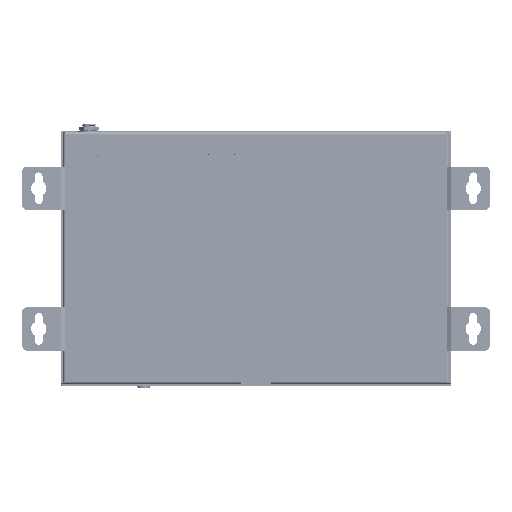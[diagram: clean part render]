
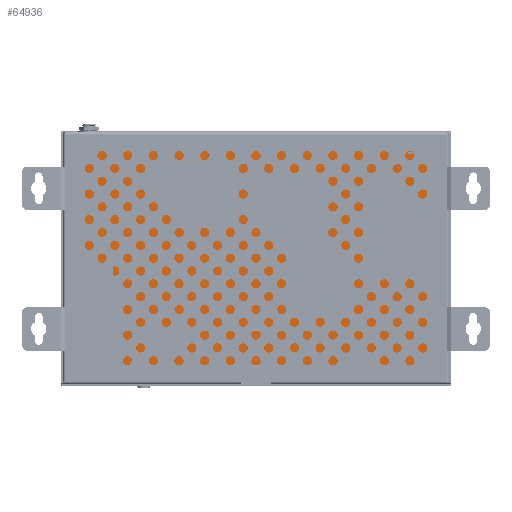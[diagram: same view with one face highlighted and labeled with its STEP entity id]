
A CAD part, front view. The second image highlights one B-rep face of the part: STEP entity #64936.
In plain terms, the highlighted planar face has unit normal (0, -1, 0).
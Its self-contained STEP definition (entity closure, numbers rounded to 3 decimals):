
#64397=CARTESIAN_POINT('',(-76.75,0.,-65.75));
#64398=DIRECTION('',(0.,1.,0.));
#64399=DIRECTION('',(0.,0.,-1.));
#64400=AXIS2_PLACEMENT_3D('',#64397,#64398,#64399);
#64402=CARTESIAN_POINT('',(-99.25,0.,-0.5));
#64403=DIRECTION('',(0.,1.,0.));
#64404=DIRECTION('',(0.,0.,-1.));
#64405=AXIS2_PLACEMENT_3D('',#64402,#64403,#64404);
#64407=DIRECTION('',(0.,0.,1.));
#64408=VECTOR('',#64407,66.75);
#64409=CARTESIAN_POINT('',(-101.25,0.,-0.5));
#64410=LINE('',#64409,#64408);
#64411=CARTESIAN_POINT('',(-99.25,0.,66.25));
#64412=DIRECTION('',(0.,1.,0.));
#64413=DIRECTION('',(-1.,0.,0.));
#64414=AXIS2_PLACEMENT_3D('',#64411,#64412,#64413);
#64416=DIRECTION('',(1.,0.,0.));
#64417=VECTOR('',#64416,136.8);
#64418=CARTESIAN_POINT('',(-99.25,0.,68.25));
#64419=LINE('',#64418,#64417);
#64420=DIRECTION('',(0.,0.,-1.));
#64421=VECTOR('',#64420,8.5);
#64422=CARTESIAN_POINT('',(37.55,0.,68.25));
#64423=LINE('',#64422,#64421);
#64424=DIRECTION('',(1.,0.,0.));
#64425=VECTOR('',#64424,47.2);
#64426=CARTESIAN_POINT('',(52.05,0.,68.25));
#64427=LINE('',#64426,#64425);
#64428=CARTESIAN_POINT('',(99.25,0.,66.25));
#64429=DIRECTION('',(0.,1.,0.));
#64430=DIRECTION('',(0.,0.,1.));
#64431=AXIS2_PLACEMENT_3D('',#64428,#64429,#64430);
#64433=CARTESIAN_POINT('',(99.25,0.,-65.75));
#64434=DIRECTION('',(0.,1.,0.));
#64435=DIRECTION('',(1.,0.,0.));
#64436=AXIS2_PLACEMENT_3D('',#64433,#64434,#64435);
#64438=CARTESIAN_POINT('',(71.,0.,36.1));
#64439=DIRECTION('',(0.,-1.,0.));
#64440=DIRECTION('',(1.,0.,0.));
#64441=AXIS2_PLACEMENT_3D('',#64438,#64439,#64440);
#64443=CARTESIAN_POINT('',(71.,0.,36.1));
#64444=DIRECTION('',(0.,-1.,0.));
#64445=DIRECTION('',(-1.,0.,0.));
#64446=AXIS2_PLACEMENT_3D('',#64443,#64444,#64445);
#64448=CARTESIAN_POINT('',(60.,0.,-57.25));
#64449=DIRECTION('',(0.,-1.,0.));
#64450=DIRECTION('',(1.,0.,0.));
#64451=AXIS2_PLACEMENT_3D('',#64448,#64449,#64450);
#64453=CARTESIAN_POINT('',(60.,0.,-57.25));
#64454=DIRECTION('',(0.,-1.,0.));
#64455=DIRECTION('',(-1.,0.,0.));
#64456=AXIS2_PLACEMENT_3D('',#64453,#64454,#64455);
#64458=CARTESIAN_POINT('',(-50.,0.,-43.9));
#64459=DIRECTION('',(0.,-1.,0.));
#64460=DIRECTION('',(1.,0.,0.));
#64461=AXIS2_PLACEMENT_3D('',#64458,#64459,#64460);
#64463=CARTESIAN_POINT('',(-50.,0.,-43.9));
#64464=DIRECTION('',(0.,-1.,0.));
#64465=DIRECTION('',(-1.,0.,0.));
#64466=AXIS2_PLACEMENT_3D('',#64463,#64464,#64465);
#64468=CARTESIAN_POINT('',(8.05,0.,30.95));
#64469=DIRECTION('',(0.,-1.,0.));
#64470=DIRECTION('',(-1.,0.,0.));
#64471=AXIS2_PLACEMENT_3D('',#64468,#64469,#64470);
#64473=CARTESIAN_POINT('',(8.05,0.,30.95));
#64474=DIRECTION('',(0.,-1.,0.));
#64475=DIRECTION('',(1.,0.,0.));
#64476=AXIS2_PLACEMENT_3D('',#64473,#64474,#64475);
#64478=CARTESIAN_POINT('',(30.05,0.,17.95));
#64479=DIRECTION('',(0.,-1.,0.));
#64480=DIRECTION('',(-1.,0.,0.));
#64481=AXIS2_PLACEMENT_3D('',#64478,#64479,#64480);
#64483=CARTESIAN_POINT('',(30.05,0.,17.95));
#64484=DIRECTION('',(0.,-1.,0.));
#64485=DIRECTION('',(1.,0.,0.));
#64486=AXIS2_PLACEMENT_3D('',#64483,#64484,#64485);
#64488=CARTESIAN_POINT('',(-54.,0.,45.1));
#64489=DIRECTION('',(0.,-1.,0.));
#64490=DIRECTION('',(1.,0.,0.));
#64491=AXIS2_PLACEMENT_3D('',#64488,#64489,#64490);
#64493=CARTESIAN_POINT('',(-54.,0.,45.1));
#64494=DIRECTION('',(0.,-1.,0.));
#64495=DIRECTION('',(-1.,0.,0.));
#64496=AXIS2_PLACEMENT_3D('',#64493,#64494,#64495);
#64607=DIRECTION('',(1.,0.,0.));
#64608=VECTOR('',#64607,176.);
#64609=CARTESIAN_POINT('',(-76.75,0.,-67.75));
#64610=LINE('',#64609,#64608);
#64623=DIRECTION('',(0.,0.,1.));
#64624=VECTOR('',#64623,132.);
#64625=CARTESIAN_POINT('',(101.25,0.,-65.75));
#64626=LINE('',#64625,#64624);
#64643=DIRECTION('',(0.,0.,-1.));
#64644=VECTOR('',#64643,8.5);
#64645=CARTESIAN_POINT('',(52.05,0.,68.25));
#64646=LINE('',#64645,#64644);
#64647=DIRECTION('',(-1.,0.,0.));
#64648=VECTOR('',#64647,14.5);
#64649=CARTESIAN_POINT('',(52.05,0.,59.75));
#64650=LINE('',#64649,#64648);
#64691=DIRECTION('',(1.,0.,0.));
#64692=VECTOR('',#64691,20.5);
#64693=CARTESIAN_POINT('',(-99.25,0.,-2.5));
#64694=LINE('',#64693,#64692);
#64703=DIRECTION('',(0.,0.,-1.));
#64704=VECTOR('',#64703,63.25);
#64705=CARTESIAN_POINT('',(-78.75,0.,-2.5));
#64706=LINE('',#64705,#64704);
#64755=CARTESIAN_POINT('',(-76.75,0.,-67.75));
#64756=CARTESIAN_POINT('',(-78.75,0.,-65.75));
#64757=VERTEX_POINT('',#64755);
#64758=VERTEX_POINT('',#64756);
#64759=CARTESIAN_POINT('',(-78.75,0.,-2.5));
#64760=VERTEX_POINT('',#64759);
#64761=CARTESIAN_POINT('',(-99.25,0.,-2.5));
#64762=VERTEX_POINT('',#64761);
#64763=CARTESIAN_POINT('',(-101.25,0.,-0.5));
#64764=VERTEX_POINT('',#64763);
#64765=CARTESIAN_POINT('',(-101.25,0.,66.25));
#64766=VERTEX_POINT('',#64765);
#64767=CARTESIAN_POINT('',(-99.25,0.,68.25));
#64768=VERTEX_POINT('',#64767);
#64769=CARTESIAN_POINT('',(37.55,0.,68.25));
#64770=VERTEX_POINT('',#64769);
#64771=CARTESIAN_POINT('',(37.55,0.,59.75));
#64772=VERTEX_POINT('',#64771);
#64773=CARTESIAN_POINT('',(52.05,0.,59.75));
#64774=VERTEX_POINT('',#64773);
#64775=CARTESIAN_POINT('',(52.05,0.,68.25));
#64776=VERTEX_POINT('',#64775);
#64777=CARTESIAN_POINT('',(99.25,0.,68.25));
#64778=VERTEX_POINT('',#64777);
#64779=CARTESIAN_POINT('',(101.25,0.,66.25));
#64780=VERTEX_POINT('',#64779);
#64781=CARTESIAN_POINT('',(101.25,0.,-65.75));
#64782=VERTEX_POINT('',#64781);
#64783=CARTESIAN_POINT('',(99.25,0.,-67.75));
#64784=VERTEX_POINT('',#64783);
#64785=CARTESIAN_POINT('',(72.6,0.,36.1));
#64786=CARTESIAN_POINT('',(69.4,0.,36.1));
#64787=VERTEX_POINT('',#64785);
#64788=VERTEX_POINT('',#64786);
#64789=CARTESIAN_POINT('',(61.6,0.,-57.25));
#64790=CARTESIAN_POINT('',(58.4,0.,-57.25));
#64791=VERTEX_POINT('',#64789);
#64792=VERTEX_POINT('',#64790);
#64793=CARTESIAN_POINT('',(-48.4,0.,-43.9));
#64794=CARTESIAN_POINT('',(-51.6,0.,-43.9));
#64795=VERTEX_POINT('',#64793);
#64796=VERTEX_POINT('',#64794);
#64797=CARTESIAN_POINT('',(6.45,0.,30.95));
#64798=CARTESIAN_POINT('',(9.65,0.,30.95));
#64799=VERTEX_POINT('',#64797);
#64800=VERTEX_POINT('',#64798);
#64801=CARTESIAN_POINT('',(28.45,0.,17.95));
#64802=CARTESIAN_POINT('',(31.65,0.,17.95));
#64803=VERTEX_POINT('',#64801);
#64804=VERTEX_POINT('',#64802);
#64805=CARTESIAN_POINT('',(-52.4,0.,45.1));
#64806=CARTESIAN_POINT('',(-55.6,0.,45.1));
#64807=VERTEX_POINT('',#64805);
#64808=VERTEX_POINT('',#64806);
#64863=CARTESIAN_POINT('',(0.,0.,0.));
#64864=DIRECTION('',(0.,1.,0.));
#64865=DIRECTION('',(1.,0.,0.));
#64866=AXIS2_PLACEMENT_3D('',#64863,#64864,#64865);
#64867=PLANE('',#64866);
#64869=ORIENTED_EDGE('',*,*,#64868,.T.);
#64871=ORIENTED_EDGE('',*,*,#64870,.F.);
#64873=ORIENTED_EDGE('',*,*,#64872,.F.);
#64875=ORIENTED_EDGE('',*,*,#64874,.T.);
#64877=ORIENTED_EDGE('',*,*,#64876,.T.);
#64879=ORIENTED_EDGE('',*,*,#64878,.T.);
#64881=ORIENTED_EDGE('',*,*,#64880,.T.);
#64883=ORIENTED_EDGE('',*,*,#64882,.T.);
#64885=ORIENTED_EDGE('',*,*,#64884,.F.);
#64887=ORIENTED_EDGE('',*,*,#64886,.F.);
#64889=ORIENTED_EDGE('',*,*,#64888,.T.);
#64891=ORIENTED_EDGE('',*,*,#64890,.T.);
#64893=ORIENTED_EDGE('',*,*,#64892,.F.);
#64895=ORIENTED_EDGE('',*,*,#64894,.T.);
#64897=ORIENTED_EDGE('',*,*,#64896,.F.);
#64898=EDGE_LOOP('',(#64869,#64871,#64873,#64875,#64877,#64879,#64881,#64883,
#64885,#64887,#64889,#64891,#64893,#64895,#64897));
#64899=FACE_OUTER_BOUND('',#64898,.F.);
#64901=ORIENTED_EDGE('',*,*,#64900,.T.);
#64903=ORIENTED_EDGE('',*,*,#64902,.T.);
#64904=EDGE_LOOP('',(#64901,#64903));
#64905=FACE_BOUND('',#64904,.F.);
#64907=ORIENTED_EDGE('',*,*,#64906,.T.);
#64909=ORIENTED_EDGE('',*,*,#64908,.T.);
#64910=EDGE_LOOP('',(#64907,#64909));
#64911=FACE_BOUND('',#64910,.F.);
#64913=ORIENTED_EDGE('',*,*,#64912,.T.);
#64915=ORIENTED_EDGE('',*,*,#64914,.T.);
#64916=EDGE_LOOP('',(#64913,#64915));
#64917=FACE_BOUND('',#64916,.F.);
#64919=ORIENTED_EDGE('',*,*,#64918,.T.);
#64921=ORIENTED_EDGE('',*,*,#64920,.T.);
#64922=EDGE_LOOP('',(#64919,#64921));
#64923=FACE_BOUND('',#64922,.F.);
#64925=ORIENTED_EDGE('',*,*,#64924,.T.);
#64927=ORIENTED_EDGE('',*,*,#64926,.T.);
#64928=EDGE_LOOP('',(#64925,#64927));
#64929=FACE_BOUND('',#64928,.F.);
#64931=ORIENTED_EDGE('',*,*,#64930,.T.);
#64933=ORIENTED_EDGE('',*,*,#64932,.T.);
#64934=EDGE_LOOP('',(#64931,#64933));
#64935=FACE_BOUND('',#64934,.F.);
#64401=CIRCLE('',#64400,2.);
#64406=CIRCLE('',#64405,2.);
#64415=CIRCLE('',#64414,2.);
#64432=CIRCLE('',#64431,2.);
#64437=CIRCLE('',#64436,2.);
#64442=CIRCLE('',#64441,1.6);
#64447=CIRCLE('',#64446,1.6);
#64452=CIRCLE('',#64451,1.6);
#64457=CIRCLE('',#64456,1.6);
#64462=CIRCLE('',#64461,1.6);
#64467=CIRCLE('',#64466,1.6);
#64472=CIRCLE('',#64471,1.6);
#64477=CIRCLE('',#64476,1.6);
#64482=CIRCLE('',#64481,1.6);
#64487=CIRCLE('',#64486,1.6);
#64492=CIRCLE('',#64491,1.6);
#64497=CIRCLE('',#64496,1.6);
#64868=EDGE_CURVE('',#64757,#64758,#64401,.T.);
#64870=EDGE_CURVE('',#64760,#64758,#64706,.T.);
#64872=EDGE_CURVE('',#64762,#64760,#64694,.T.);
#64874=EDGE_CURVE('',#64762,#64764,#64406,.T.);
#64876=EDGE_CURVE('',#64764,#64766,#64410,.T.);
#64878=EDGE_CURVE('',#64766,#64768,#64415,.T.);
#64880=EDGE_CURVE('',#64768,#64770,#64419,.T.);
#64882=EDGE_CURVE('',#64770,#64772,#64423,.T.);
#64884=EDGE_CURVE('',#64774,#64772,#64650,.T.);
#64886=EDGE_CURVE('',#64776,#64774,#64646,.T.);
#64888=EDGE_CURVE('',#64776,#64778,#64427,.T.);
#64890=EDGE_CURVE('',#64778,#64780,#64432,.T.);
#64892=EDGE_CURVE('',#64782,#64780,#64626,.T.);
#64894=EDGE_CURVE('',#64782,#64784,#64437,.T.);
#64896=EDGE_CURVE('',#64757,#64784,#64610,.T.);
#64900=EDGE_CURVE('',#64787,#64788,#64442,.T.);
#64902=EDGE_CURVE('',#64788,#64787,#64447,.T.);
#64906=EDGE_CURVE('',#64791,#64792,#64452,.T.);
#64908=EDGE_CURVE('',#64792,#64791,#64457,.T.);
#64912=EDGE_CURVE('',#64795,#64796,#64462,.T.);
#64914=EDGE_CURVE('',#64796,#64795,#64467,.T.);
#64918=EDGE_CURVE('',#64799,#64800,#64472,.T.);
#64920=EDGE_CURVE('',#64800,#64799,#64477,.T.);
#64924=EDGE_CURVE('',#64803,#64804,#64482,.T.);
#64926=EDGE_CURVE('',#64804,#64803,#64487,.T.);
#64930=EDGE_CURVE('',#64807,#64808,#64492,.T.);
#64932=EDGE_CURVE('',#64808,#64807,#64497,.T.);
#64936=ADVANCED_FACE('',(#64899,#64905,#64911,#64917,#64923,#64929,#64935),
#64867,.F.);
